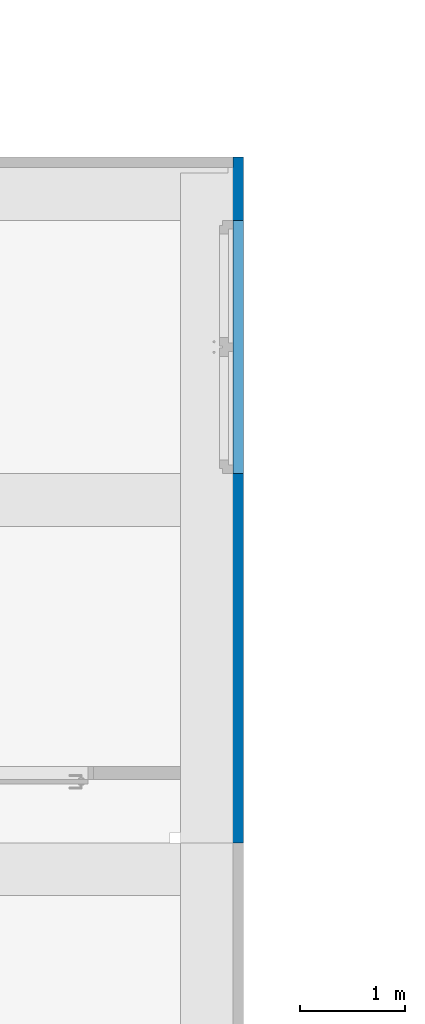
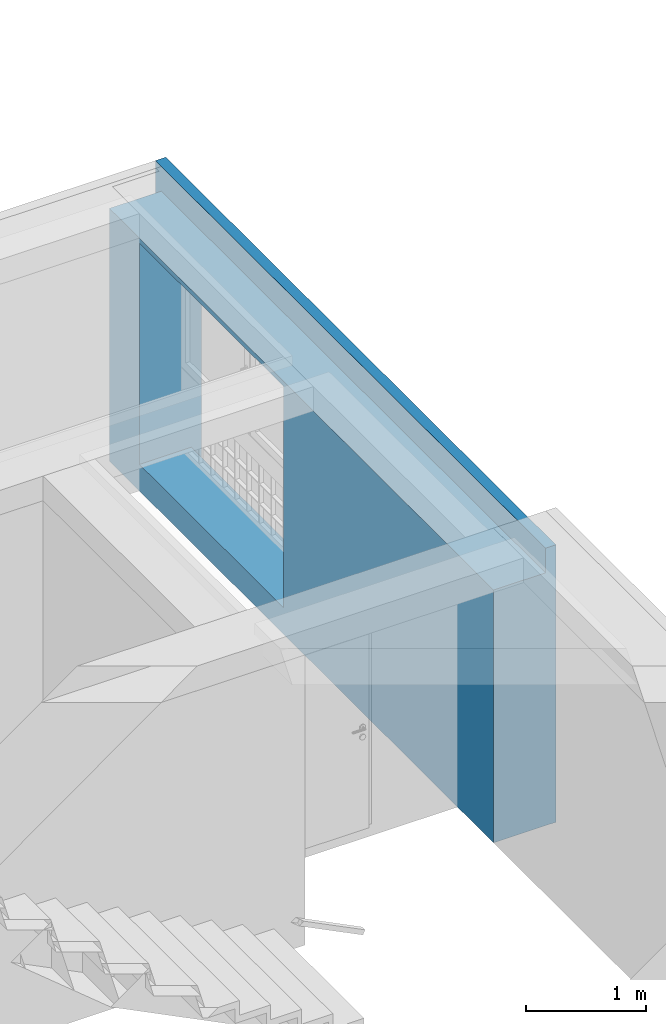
# One storey, part 14 of 27: 1 wall, 2 openings.
"""IFC4 building model written with IfcOpenShell, lengths in metres."""

from ifc_helpers import new_model, entity, si_unit, converted_unit, derived_unit, frame, origin, origin_with_axes, place, context, subcontext, project, spatial, polyline, outline, extrude, faceted_brep, material, element, save


model = new_model("IFC4")

# Units and contexts
model_context = context("Model", 3, precision=1e-05, world=origin())
body_context = subcontext(model_context, "Body", "Model", "MODEL_VIEW")
ifc_project = project(units=[si_unit("LENGTHUNIT", "METRE"), si_unit("AREAUNIT", "SQUARE_METRE"), si_unit("VOLUMEUNIT", "CUBIC_METRE"), si_unit("MASSUNIT", "GRAM", prefix="KILO"), converted_unit("PLANEANGLEUNIT", "DEGREE", entity("IfcPlaneAngleMeasure", 0.0174532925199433), si_unit("PLANEANGLEUNIT", "RADIAN"), dimensions=[0, 0, 0, 0, 0, 0, 0]), derived_unit("THERMALTRANSMITTANCEUNIT", [(si_unit("POWERUNIT", "WATT"), 1), (si_unit("THERMODYNAMICTEMPERATUREUNIT", "KELVIN"), -1), (si_unit("LENGTHUNIT", "METRE"), -2)]), derived_unit("VOLUMETRICFLOWRATEUNIT", [(si_unit("LENGTHUNIT", "METRE"), 3), (converted_unit("TIMEUNIT", "hour", entity("IfcTimeMeasure", 3600.0), si_unit("TIMEUNIT", "SECOND"), dimensions=[0, 0, 1, 0, 0, 0, 0]), -1), (si_unit("LENGTHUNIT", "METRE"), -1)])], contexts=[model_context])

# Site, building, storey
site_placement = place(None, origin())
site = spatial("IfcSite", under=ifc_project, at=site_placement, Name="3. ASŘ", CompositionType="ELEMENT")
building_placement = place(site_placement, origin())
building = spatial("IfcBuilding", under=site, at=building_placement, Name="Pavilon C", CompositionType="ELEMENT")
storey_placement = place(building_placement, frame((0.0, 0.0, 10.5)))
storey = spatial("IfcBuildingStorey", under=building, at=storey_placement, Name="Půdorys 4.NP", CompositionType="ELEMENT", Elevation=10.5)

# Wall, openings
ifc_material = material(Name="EPS")
wall_placement = place(storey_placement, frame((-1.52499999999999, 4.45, -0.42)))
wall = element("IfcWall", 1, at=wall_placement, inside=storey, material=ifc_material, Name="ZDIVO Z CDm", context=body_context, shape_type="Brep", body=[
    faceted_brep([(0.6, 5.90000000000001, 0.27), (0.6, 5.90000000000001, 0.12), (0.5, 5.90000000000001, 0.12), (0.5, 5.90000000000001, 0.27), (0.5, 3.50000000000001, 0.12), (0.6, 3.50000000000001, 0.12), (0.6, 6.5, 0.0), (0.6, 9.09494701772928e-16, 0.0), (0.6, 9.09494701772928e-16, 2.82), (0.6, 6.5, 2.82), (0.6, 3.50000000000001, 0.27), (0.5, 3.50000000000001, 0.27), (0.5, 6.4, 0.0), (0.0, 6.4, 0.0), (0.0, 9.09494701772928e-16, 0.0), (0.5, 6.5, 0.0), (0.5, 6.5, 2.82), (0.5, 9.09494701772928e-16, 2.82), (0.0, 9.09494701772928e-16, 2.57), (0.5, 9.09494701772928e-16, 2.57), (0.5, 6.4, 2.57), (0.0, 6.4, 2.57)], [[[0, 1, 2, 3]], [[4, 2, 1, 5]], [[6, 7, 8, 9], [1, 0, 10, 5]], [[10, 0, 3, 11]], [[11, 4, 5, 10]], [[12, 13, 14, 7, 6, 15]], [[15, 6, 9, 16]], [[8, 17, 16, 9]], [[7, 14, 18, 19, 17, 8]], [[12, 15, 16, 17, 19, 20]], [[14, 13, 21, 18]], [[19, 18, 21, 20]], [[13, 12, 20, 21]], [[3, 2, 4, 11]]], orient=[[False], [False], [False, False], [False], [False], [False], [False], [False], [False], [False], [False], [False], [False], [False]]),
])
opening_1_placement = place(wall_placement, frame((0.6, 3.50000000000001, 0.27), z_axis=(-1.0, 0.0, 0.0), x_axis=(0.0, 0.0, 1.0)))
element("IfcOpeningElement", 2, at=opening_1_placement, cuts=wall, Name="Okenní otvor", ObjectType="Opening", context=body_context, shape_type="SweptSolid", body=[
    extrude(outline(polyline([(0.0, 2.4), (0.85, 2.4), (0.85, 0.0), (0.0, 0.0), (0.0, 2.4)])), origin_with_axes(), (0.0, 0.0, 1.0), 0.1),
    extrude(outline(polyline([(0.0, 2.39999999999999), (0.85, 2.39999999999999), (0.85, 0.0), (0.0, 0.0), (0.0, 2.39999999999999)])), frame((0.0, 0.0, 0.1), z_axis=(0.0, 0.0, 1.0), x_axis=(1.0, 0.0, 0.0)), (0.0, 0.0, 1.0), 0.5),
])
opening_2_placement = place(wall_placement, frame((0.6, 3.50000000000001, 1.12), z_axis=(-1.0, 0.0, 0.0), x_axis=(0.0, 0.0, 1.0)))
element("IfcOpeningElement", 3, at=opening_2_placement, cuts=wall, Name="Okenní otvor", ObjectType="Opening", context=body_context, shape_type="SweptSolid", body=[
    extrude(outline(polyline([(0.0, 2.4), (1.4, 2.4), (1.4, 0.0), (0.0, 0.0), (0.0, 2.4)])), origin_with_axes(), (0.0, 0.0, 1.0), 0.1),
    extrude(outline(polyline([(0.0, 2.39999999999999), (1.4, 2.39999999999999), (1.4, 0.0), (0.0, 0.0), (0.0, 2.39999999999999)])), frame((0.0, 0.0, 0.1), z_axis=(0.0, 0.0, 1.0), x_axis=(1.0, 0.0, 0.0)), (0.0, 0.0, 1.0), 0.5),
])

save(model, "model.ifc")
